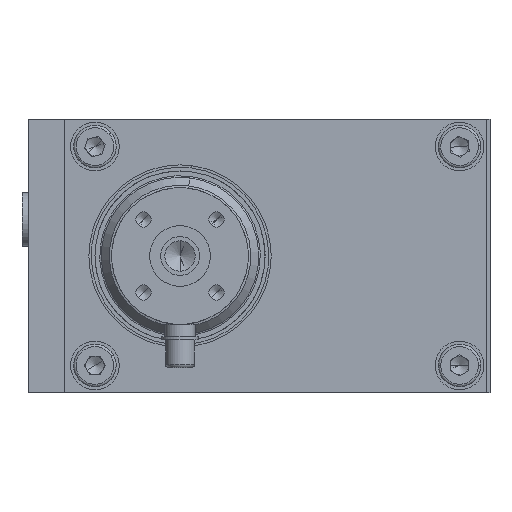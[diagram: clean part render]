
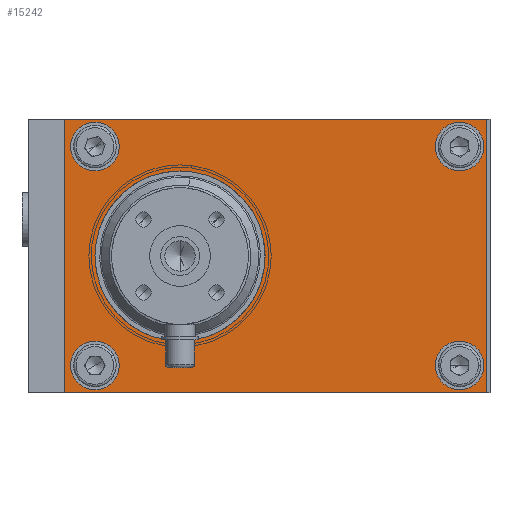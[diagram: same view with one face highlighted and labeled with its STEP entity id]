
A CAD part, left-side view. The second image highlights one B-rep face of the part: STEP entity #15242.
In plain terms, the highlighted planar face has unit normal (-1, 0, 0).
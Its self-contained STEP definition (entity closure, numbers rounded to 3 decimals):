
#179 = PLANE ( 'NONE',  #29105 ) ;
#353 = CARTESIAN_POINT ( 'NONE',  ( -88.219, -51.212, 43.941 ) ) ;
#547 = DIRECTION ( 'NONE',  ( -1., 0., 0. ) ) ;
#1030 = VERTEX_POINT ( 'NONE', #27732 ) ;
#1315 = FACE_OUTER_BOUND ( 'NONE', #12201, .T. ) ;
#1453 = CIRCLE ( 'NONE', #10759, 4. ) ;
#1619 = AXIS2_PLACEMENT_3D ( 'NONE', #25929, #11947, #28254 ) ;
#1846 = CIRCLE ( 'NONE', #8108, 4. ) ;
#2492 = DIRECTION ( 'NONE',  ( 0., 0., -1. ) ) ;
#3284 = DIRECTION ( 'NONE',  ( -1., 0., 0. ) ) ;
#3519 = CARTESIAN_POINT ( 'NONE',  ( -88.219, 8.788, 79.941 ) ) ;
#3611 = CARTESIAN_POINT ( 'NONE',  ( -88.219, -51.212, 79.941 ) ) ;
#3651 = CIRCLE ( 'NONE', #1619, 4. ) ;
#3939 = CIRCLE ( 'NONE', #10896, 4. ) ;
#4263 = VERTEX_POINT ( 'NONE', #13170 ) ;
#4555 = EDGE_CURVE ( 'NONE', #25620, #14541, #28793, .T. ) ;
#4837 = CARTESIAN_POINT ( 'NONE',  ( -88.219, -55.712, 80.441 ) ) ;
#5118 = CARTESIAN_POINT ( 'NONE',  ( -88.219, -55.712, 35.441 ) ) ;
#5130 = AXIS2_PLACEMENT_3D ( 'NONE', #14582, #547, #16929 ) ;
#5207 = CARTESIAN_POINT ( 'NONE',  ( -88.219, 8.788, 39.941 ) ) ;
#5359 = FACE_BOUND ( 'NONE', #30158, .T. ) ;
#5492 = DIRECTION ( 'NONE',  ( 0., 0., 1. ) ) ;
#5511 = DIRECTION ( 'NONE',  ( -1., 0., 0. ) ) ;
#5525 = VECTOR ( 'NONE', #11302, 1000. ) ;
#5534 = CARTESIAN_POINT ( 'NONE',  ( -88.219, 8.788, 75.941 ) ) ;
#6086 = EDGE_LOOP ( 'NONE', ( #14927, #28484 ) ) ;
#6107 = VECTOR ( 'NONE', #21051, 1000. ) ;
#6280 = EDGE_CURVE ( 'NONE', #13110, #4263, #19206, .T. ) ;
#6301 = ORIENTED_EDGE ( 'NONE', *, *, #19182, .F. ) ;
#6646 = CIRCLE ( 'NONE', #17693, 4. ) ;
#7047 = CARTESIAN_POINT ( 'NONE',  ( -88.219, -55.712, 35.441 ) ) ;
#7187 = CARTESIAN_POINT ( 'NONE',  ( -88.219, 13.788, 80.441 ) ) ;
#7268 = DIRECTION ( 'NONE',  ( -1., 0., 0. ) ) ;
#7588 = DIRECTION ( 'NONE',  ( 0., 0., 1. ) ) ;
#7901 = DIRECTION ( 'NONE',  ( 0., 0., 1. ) ) ;
#8051 = ORIENTED_EDGE ( 'NONE', *, *, #20977, .F. ) ;
#8108 = AXIS2_PLACEMENT_3D ( 'NONE', #10869, #27191, #13224 ) ;
#8717 = VECTOR ( 'NONE', #21320, 1000. ) ;
#8883 = AXIS2_PLACEMENT_3D ( 'NONE', #19527, #5511, #21887 ) ;
#8896 = ORIENTED_EDGE ( 'NONE', *, *, #18550, .F. ) ;
#9639 = CARTESIAN_POINT ( 'NONE',  ( -88.219, 8.788, 35.941 ) ) ;
#9972 = EDGE_CURVE ( 'NONE', #18444, #13887, #21626, .T. ) ;
#10527 = ORIENTED_EDGE ( 'NONE', *, *, #4555, .T. ) ;
#10750 = DIRECTION ( 'NONE',  ( -1., 0., 0. ) ) ;
#10759 = AXIS2_PLACEMENT_3D ( 'NONE', #21277, #7268, #23638 ) ;
#10869 = CARTESIAN_POINT ( 'NONE',  ( -88.219, -51.212, 75.941 ) ) ;
#10896 = AXIS2_PLACEMENT_3D ( 'NONE', #5207, #21594, #7588 ) ;
#11232 = CARTESIAN_POINT ( 'NONE',  ( -88.219, -51.212, 35.941 ) ) ;
#11302 = DIRECTION ( 'NONE',  ( 0., -1., 0. ) ) ;
#11612 = FACE_BOUND ( 'NONE', #29403, .T. ) ;
#11669 = EDGE_CURVE ( 'NONE', #20933, #30234, #16752, .T. ) ;
#11703 = CARTESIAN_POINT ( 'NONE',  ( -88.219, -5.212, 43.941 ) ) ;
#11947 = DIRECTION ( 'NONE',  ( -1., 0., 0. ) ) ;
#12201 = EDGE_LOOP ( 'NONE', ( #10527, #23653, #16643, #17962 ) ) ;
#12717 = EDGE_LOOP ( 'NONE', ( #20232, #27622 ) ) ;
#13076 = LINE ( 'NONE', #30312, #6107 ) ;
#13110 = VERTEX_POINT ( 'NONE', #3611 ) ;
#13156 = ORIENTED_EDGE ( 'NONE', *, *, #6280, .F. ) ;
#13170 = CARTESIAN_POINT ( 'NONE',  ( -88.219, -51.212, 71.941 ) ) ;
#13224 = DIRECTION ( 'NONE',  ( 0., 0., 1. ) ) ;
#13365 = ORIENTED_EDGE ( 'NONE', *, *, #18462, .F. ) ;
#13887 = VERTEX_POINT ( 'NONE', #11232 ) ;
#14464 = CARTESIAN_POINT ( 'NONE',  ( -88.219, 13.788, 35.441 ) ) ;
#14541 = VERTEX_POINT ( 'NONE', #16197 ) ;
#14582 = CARTESIAN_POINT ( 'NONE',  ( -88.219, -5.212, 57.941 ) ) ;
#14927 = ORIENTED_EDGE ( 'NONE', *, *, #20581, .F. ) ;
#15042 = AXIS2_PLACEMENT_3D ( 'NONE', #17050, #24360, #5492 ) ;
#15180 = EDGE_CURVE ( 'NONE', #14541, #20933, #13076, .T. ) ;
#15242 = ADVANCED_FACE ( 'NONE', ( #18549, #17807, #11612, #5359, #1315, #29478 ), #179, .F. ) ;
#15451 = VERTEX_POINT ( 'NONE', #3519 ) ;
#16197 = CARTESIAN_POINT ( 'NONE',  ( -88.219, -55.712, 80.441 ) ) ;
#16555 = DIRECTION ( 'NONE',  ( 1., 0., 0. ) ) ;
#16643 = ORIENTED_EDGE ( 'NONE', *, *, #11669, .T. ) ;
#16678 = CARTESIAN_POINT ( 'NONE',  ( -88.219, 13.788, 35.441 ) ) ;
#16752 = LINE ( 'NONE', #14464, #28426 ) ;
#16867 = VERTEX_POINT ( 'NONE', #19481 ) ;
#16929 = DIRECTION ( 'NONE',  ( 0., 0., 1. ) ) ;
#17050 = CARTESIAN_POINT ( 'NONE',  ( -88.219, -5.212, 57.941 ) ) ;
#17325 = CARTESIAN_POINT ( 'NONE',  ( -88.219, 8.788, 39.941 ) ) ;
#17359 = ORIENTED_EDGE ( 'NONE', *, *, #22919, .F. ) ;
#17693 = AXIS2_PLACEMENT_3D ( 'NONE', #17325, #3284, #19672 ) ;
#17807 = FACE_BOUND ( 'NONE', #6086, .T. ) ;
#17962 = ORIENTED_EDGE ( 'NONE', *, *, #22272, .T. ) ;
#18444 = VERTEX_POINT ( 'NONE', #353 ) ;
#18462 = EDGE_CURVE ( 'NONE', #23188, #22386, #26756, .T. ) ;
#18549 = FACE_BOUND ( 'NONE', #12717, .T. ) ;
#18550 = EDGE_CURVE ( 'NONE', #22455, #16867, #6646, .T. ) ;
#19039 = CIRCLE ( 'NONE', #15042, 14. ) ;
#19182 = EDGE_CURVE ( 'NONE', #4263, #13110, #1846, .T. ) ;
#19206 = CIRCLE ( 'NONE', #25023, 4. ) ;
#19481 = CARTESIAN_POINT ( 'NONE',  ( -88.219, 8.788, 43.941 ) ) ;
#19527 = CARTESIAN_POINT ( 'NONE',  ( -88.219, -51.212, 39.941 ) ) ;
#19672 = DIRECTION ( 'NONE',  ( 0., 0., 1. ) ) ;
#19719 = CIRCLE ( 'NONE', #30240, 4. ) ;
#19836 = EDGE_CURVE ( 'NONE', #1030, #15451, #3651, .T. ) ;
#20232 = ORIENTED_EDGE ( 'NONE', *, *, #9972, .F. ) ;
#20581 = EDGE_CURVE ( 'NONE', #15451, #1030, #19719, .T. ) ;
#20933 = VERTEX_POINT ( 'NONE', #7187 ) ;
#20977 = EDGE_CURVE ( 'NONE', #16867, #22455, #3939, .T. ) ;
#21051 = DIRECTION ( 'NONE',  ( 0., 1., 0. ) ) ;
#21277 = CARTESIAN_POINT ( 'NONE',  ( -88.219, -51.212, 39.941 ) ) ;
#21320 = DIRECTION ( 'NONE',  ( 0., 0., 1. ) ) ;
#21594 = DIRECTION ( 'NONE',  ( -1., 0., 0. ) ) ;
#21626 = CIRCLE ( 'NONE', #8883, 4. ) ;
#21887 = DIRECTION ( 'NONE',  ( 0., 0., 1. ) ) ;
#21906 = DIRECTION ( 'NONE',  ( -1., 0., 0. ) ) ;
#22272 = EDGE_CURVE ( 'NONE', #30234, #25620, #29635, .T. ) ;
#22386 = VERTEX_POINT ( 'NONE', #11703 ) ;
#22455 = VERTEX_POINT ( 'NONE', #9639 ) ;
#22919 = EDGE_CURVE ( 'NONE', #22386, #23188, #19039, .T. ) ;
#23188 = VERTEX_POINT ( 'NONE', #29895 ) ;
#23638 = DIRECTION ( 'NONE',  ( 0., 0., 1. ) ) ;
#23653 = ORIENTED_EDGE ( 'NONE', *, *, #15180, .T. ) ;
#23889 = EDGE_LOOP ( 'NONE', ( #8051, #8896 ) ) ;
#24360 = DIRECTION ( 'NONE',  ( -1., 0., 0. ) ) ;
#24750 = CARTESIAN_POINT ( 'NONE',  ( -88.219, -51.212, 75.941 ) ) ;
#25023 = AXIS2_PLACEMENT_3D ( 'NONE', #24750, #10750, #27082 ) ;
#25314 = CARTESIAN_POINT ( 'NONE',  ( -88.219, -55.712, 35.441 ) ) ;
#25620 = VERTEX_POINT ( 'NONE', #5118 ) ;
#25929 = CARTESIAN_POINT ( 'NONE',  ( -88.219, 8.788, 75.941 ) ) ;
#26756 = CIRCLE ( 'NONE', #5130, 14. ) ;
#27082 = DIRECTION ( 'NONE',  ( 0., 0., 1. ) ) ;
#27191 = DIRECTION ( 'NONE',  ( -1., 0., 0. ) ) ;
#27622 = ORIENTED_EDGE ( 'NONE', *, *, #30217, .F. ) ;
#27732 = CARTESIAN_POINT ( 'NONE',  ( -88.219, 8.788, 71.941 ) ) ;
#28254 = DIRECTION ( 'NONE',  ( 0., 0., 1. ) ) ;
#28426 = VECTOR ( 'NONE', #28530, 1000. ) ;
#28484 = ORIENTED_EDGE ( 'NONE', *, *, #19836, .F. ) ;
#28530 = DIRECTION ( 'NONE',  ( 0., 0., -1. ) ) ;
#28793 = LINE ( 'NONE', #4837, #8717 ) ;
#29105 = AXIS2_PLACEMENT_3D ( 'NONE', #7047, #16555, #2492 ) ;
#29403 = EDGE_LOOP ( 'NONE', ( #13156, #6301 ) ) ;
#29478 = FACE_BOUND ( 'NONE', #23889, .T. ) ;
#29635 = LINE ( 'NONE', #25314, #5525 ) ;
#29895 = CARTESIAN_POINT ( 'NONE',  ( -88.219, -5.212, 71.941 ) ) ;
#30158 = EDGE_LOOP ( 'NONE', ( #13365, #17359 ) ) ;
#30217 = EDGE_CURVE ( 'NONE', #13887, #18444, #1453, .T. ) ;
#30234 = VERTEX_POINT ( 'NONE', #16678 ) ;
#30240 = AXIS2_PLACEMENT_3D ( 'NONE', #5534, #21906, #7901 ) ;
#30312 = CARTESIAN_POINT ( 'NONE',  ( -88.219, 13.788, 80.441 ) ) ;
